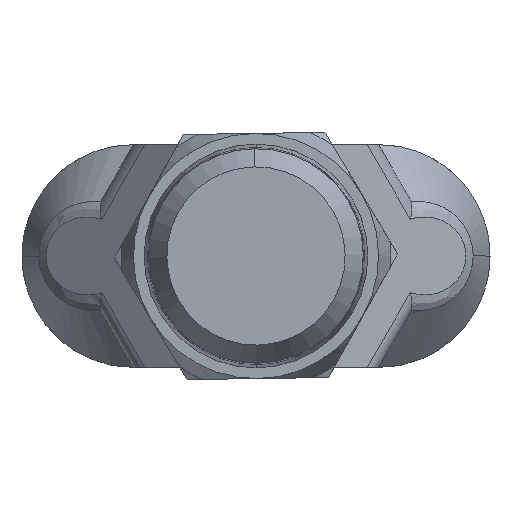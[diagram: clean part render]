
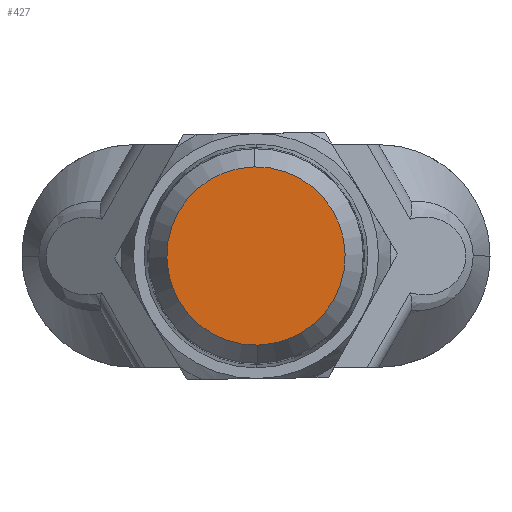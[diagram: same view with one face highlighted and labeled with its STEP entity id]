
A CAD part, front view. The second image highlights one B-rep face of the part: STEP entity #427.
In plain terms, the highlighted planar face has unit normal (0, -1, 0).
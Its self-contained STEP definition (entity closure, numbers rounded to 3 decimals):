
#427 = ADVANCED_FACE ( 'NONE', ( #13349 ), #13088, .F. ) ;
#1617 = EDGE_CURVE ( 'NONE', #2675, #2611, #13684, .T. ) ;
#2069 = EDGE_CURVE ( 'NONE', #2611, #2675, #13873, .T. ) ;
#2314 = EDGE_LOOP ( 'NONE', ( #3033, #3034 ) ) ;
#2611 = VERTEX_POINT ( 'NONE', #19221 ) ;
#2675 = VERTEX_POINT ( 'NONE', #19285 ) ;
#3033 = ORIENTED_EDGE ( 'NONE', *, *, #1617, .F. ) ;
#3034 = ORIENTED_EDGE ( 'NONE', *, *, #2069, .F. ) ;
#3899 = AXIS2_PLACEMENT_3D ( 'NONE', #13086, #13091, #13092 ) ;
#8951 = AXIS2_PLACEMENT_3D ( 'NONE', #16675, #16676, #16677 ) ;
#9000 = AXIS2_PLACEMENT_3D ( 'NONE', #17469, #17470, #17471 ) ;
#13086 = CARTESIAN_POINT ( 'NONE',  ( 0., -10.8, 0. ) ) ;
#13088 = PLANE ( 'NONE',  #3899 ) ;
#13091 = DIRECTION ( 'NONE',  ( 0., 1., 0. ) ) ;
#13092 = DIRECTION ( 'NONE',  ( -0.015, 0., 1. ) ) ;
#13349 = FACE_OUTER_BOUND ( 'NONE', #2314, .T. ) ;
#13684 = CIRCLE ( 'NONE', #8951, 4. ) ;
#13873 = CIRCLE ( 'NONE', #9000, 4. ) ;
#16675 = CARTESIAN_POINT ( 'NONE',  ( 0., -10.8, 0. ) ) ;
#16676 = DIRECTION ( 'NONE',  ( 0., 1., 0. ) ) ;
#16677 = DIRECTION ( 'NONE',  ( -0.015, 0., 1. ) ) ;
#17469 = CARTESIAN_POINT ( 'NONE',  ( 0., -10.8, 0. ) ) ;
#17470 = DIRECTION ( 'NONE',  ( 0., 1., 0. ) ) ;
#17471 = DIRECTION ( 'NONE',  ( -0.015, 0., 1. ) ) ;
#19221 = CARTESIAN_POINT ( 'NONE',  ( 0.06, -10.8, -4. ) ) ;
#19285 = CARTESIAN_POINT ( 'NONE',  ( -0.06, -10.8, 4. ) ) ;
